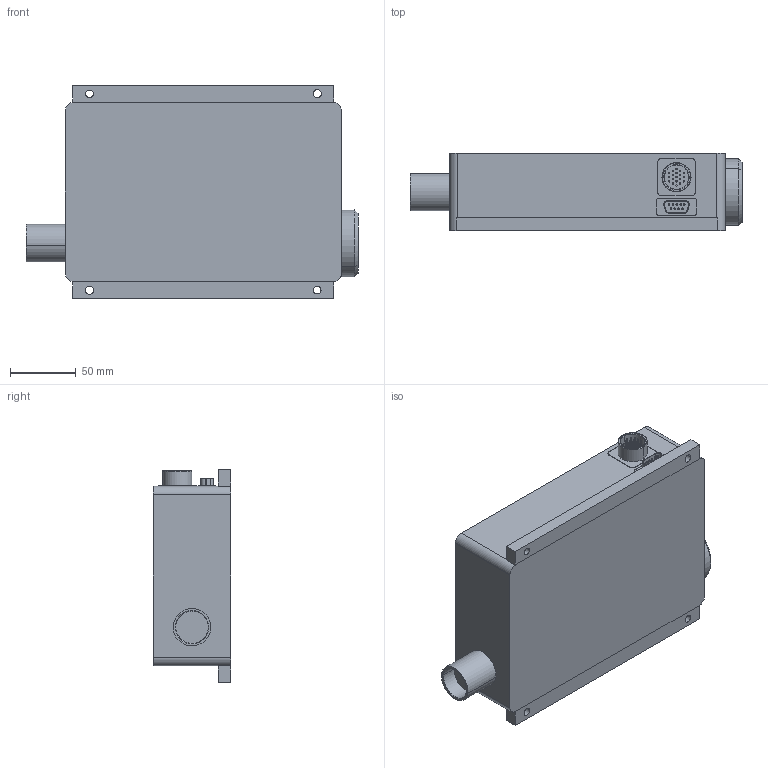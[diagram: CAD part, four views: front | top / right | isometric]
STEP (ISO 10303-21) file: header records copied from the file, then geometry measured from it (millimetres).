
FILE_DESCRIPTION (( 'STEP AP214' ), '1' );
FILE_NAME ('MZA-19-50.STEP', '2016-08-09T20:16:12', ( '' ), ( '' ), 'SwSTEP 2.0', 'SolidWorks 2016', '' );
FILE_SCHEMA (( 'AUTOMOTIVE_DESIGN' ));
Length unit declared in the file: inch
Products named in the file (1): MZA-19-50
Bounding box: 252.25 x 58.74 x 161.93 mm (x, y, z)
Volume: 1760415.7 mm3; surface area: 117276.5 mm2
Topology: 1 solids, 1 shells, 263 faces, 815 edges, 631 vertices
Faces by surface type: plane 115, cylinder 112, bspline 32, cone 4
Entity records: 10019 total; most frequent: CARTESIAN_POINT 2377, ORIENTED_EDGE 1630, DIRECTION 1548, EDGE_CURVE 815, VERTEX_POINT 631, AXIS2_PLACEMENT_3D 547, LINE 454, VECTOR 454
